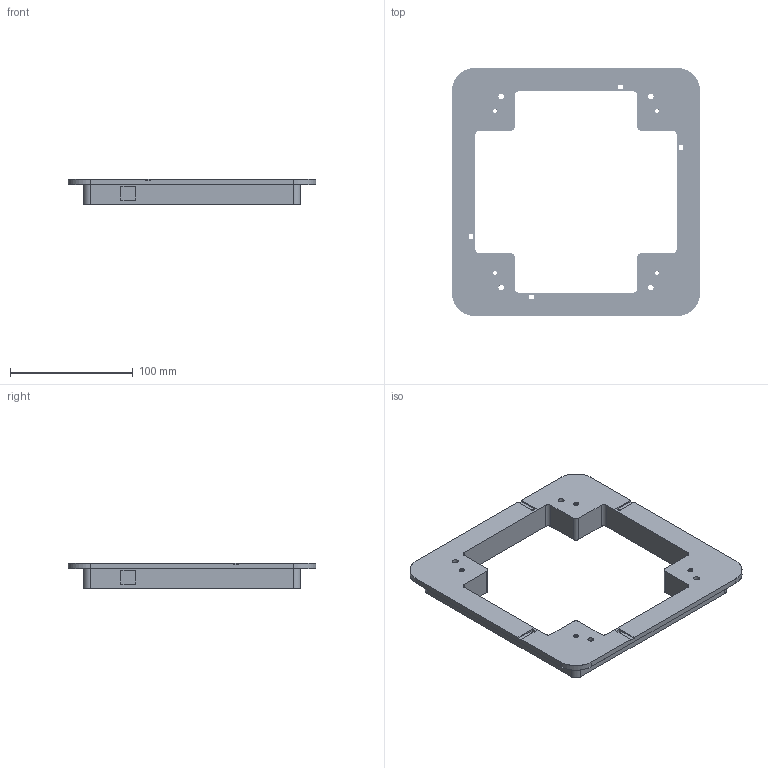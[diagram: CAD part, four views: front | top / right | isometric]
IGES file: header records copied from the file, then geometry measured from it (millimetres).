
Start section: SolidWorks IGES file using analytic representation for surfaces
Global section: file name: F:\Solidworks\神芯妙算真空系统\CoilFrame_R2Mono_M3_XRotation_Package\CoilFrame_R2Mono_M3_CNC_POM\SolidWorks\CNC_M4THREAD_20261008_FACE_ZM.IGS; native system: SolidWorks 2022; preprocessor: SolidWorks 2022; author: huyad; date: 261009.165937; units: millimetre
Bounding box: 202 x 202 x 21.2 mm (x, y, z)
Surface area: 68224.5 mm2 (no closed solid volume)
Topology: 0 solids, 0 shells, 367 faces, 8968 edges, 8968 vertices
Faces by surface type: revolution 284, bspline 83
